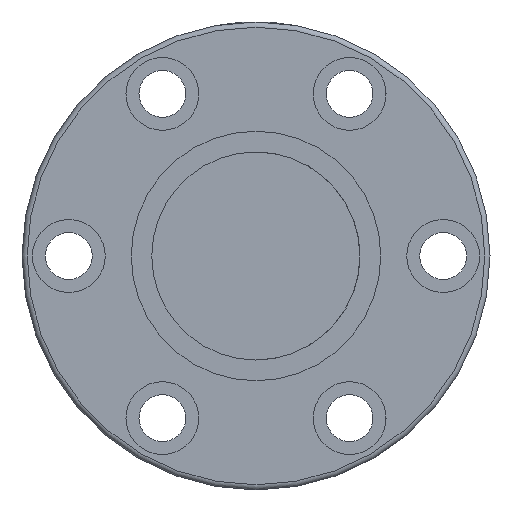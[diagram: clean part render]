
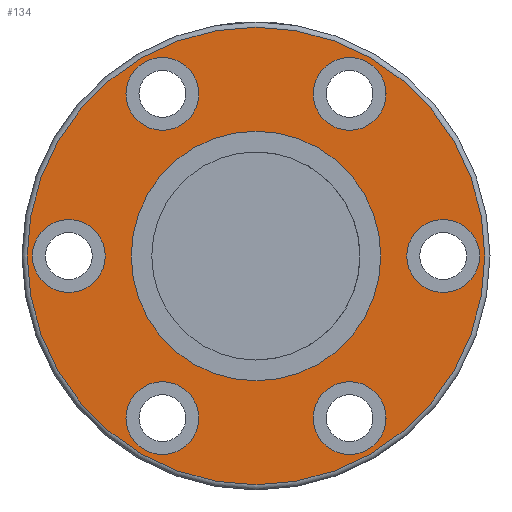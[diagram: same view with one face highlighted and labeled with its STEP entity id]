
A CAD part, front view. The second image highlights one B-rep face of the part: STEP entity #134.
In plain terms, the highlighted planar face has unit normal (0, -1, 0).
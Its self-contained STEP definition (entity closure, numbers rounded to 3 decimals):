
#134=ADVANCED_FACE('',(#197,#198,#199,#200,#201,#202,#203,#204),#179,.F.);
#179=PLANE('',#661);
#197=FACE_BOUND('',#297,.T.);
#198=FACE_BOUND('',#298,.T.);
#199=FACE_BOUND('',#299,.T.);
#200=FACE_BOUND('',#300,.T.);
#201=FACE_BOUND('',#301,.T.);
#202=FACE_BOUND('',#302,.T.);
#203=FACE_BOUND('',#303,.T.);
#204=FACE_BOUND('',#304,.T.);
#297=EDGE_LOOP('',(#399));
#298=EDGE_LOOP('',(#400));
#299=EDGE_LOOP('',(#401));
#300=EDGE_LOOP('',(#402));
#301=EDGE_LOOP('',(#403));
#302=EDGE_LOOP('',(#404));
#303=EDGE_LOOP('',(#405));
#304=EDGE_LOOP('',(#406));
#399=ORIENTED_EDGE('',*,*,#552,.T.);
#400=ORIENTED_EDGE('',*,*,#553,.T.);
#401=ORIENTED_EDGE('',*,*,#554,.T.);
#402=ORIENTED_EDGE('',*,*,#555,.T.);
#403=ORIENTED_EDGE('',*,*,#556,.T.);
#404=ORIENTED_EDGE('',*,*,#557,.T.);
#405=ORIENTED_EDGE('',*,*,#558,.T.);
#406=ORIENTED_EDGE('',*,*,#559,.F.);
#501=VERTEX_POINT('',#939);
#502=VERTEX_POINT('',#941);
#503=VERTEX_POINT('',#943);
#504=VERTEX_POINT('',#945);
#505=VERTEX_POINT('',#947);
#506=VERTEX_POINT('',#949);
#507=VERTEX_POINT('',#951);
#508=VERTEX_POINT('',#953);
#552=EDGE_CURVE('',#501,#501,#603,.T.);
#553=EDGE_CURVE('',#502,#502,#604,.T.);
#554=EDGE_CURVE('',#503,#503,#605,.T.);
#555=EDGE_CURVE('',#504,#504,#606,.T.);
#556=EDGE_CURVE('',#505,#505,#607,.T.);
#557=EDGE_CURVE('',#506,#506,#608,.T.);
#558=EDGE_CURVE('',#507,#507,#609,.T.);
#559=EDGE_CURVE('',#508,#508,#610,.T.);
#603=CIRCLE('',#653,7.);
#604=CIRCLE('',#654,7.);
#605=CIRCLE('',#655,7.);
#606=CIRCLE('',#656,7.);
#607=CIRCLE('',#657,7.);
#608=CIRCLE('',#658,7.);
#609=CIRCLE('',#659,44.);
#610=CIRCLE('',#660,24.);
#653=AXIS2_PLACEMENT_3D('',#938,#749,#750);
#654=AXIS2_PLACEMENT_3D('',#940,#751,#752);
#655=AXIS2_PLACEMENT_3D('',#942,#753,#754);
#656=AXIS2_PLACEMENT_3D('',#944,#755,#756);
#657=AXIS2_PLACEMENT_3D('',#946,#757,#758);
#658=AXIS2_PLACEMENT_3D('',#948,#759,#760);
#659=AXIS2_PLACEMENT_3D('',#950,#761,#762);
#660=AXIS2_PLACEMENT_3D('',#952,#763,#764);
#661=AXIS2_PLACEMENT_3D('',#954,#765,#766);
#749=DIRECTION('',(0.,1.,0.));
#750=DIRECTION('',(0.,0.,1.));
#751=DIRECTION('',(0.,1.,0.));
#752=DIRECTION('',(0.,0.,1.));
#753=DIRECTION('',(0.,1.,0.));
#754=DIRECTION('',(0.,0.,1.));
#755=DIRECTION('',(0.,1.,0.));
#756=DIRECTION('',(0.,0.,1.));
#757=DIRECTION('',(0.,1.,0.));
#758=DIRECTION('',(0.,0.,1.));
#759=DIRECTION('',(0.,1.,0.));
#760=DIRECTION('',(0.,0.,1.));
#761=DIRECTION('',(0.,-1.,0.));
#762=DIRECTION('',(0.,0.,1.));
#763=DIRECTION('',(0.,-1.,0.));
#764=DIRECTION('',(1.,0.,0.));
#765=DIRECTION('',(0.,1.,0.));
#766=DIRECTION('',(0.,0.,-1.));
#938=CARTESIAN_POINT('',(36.039,-27.461,0.));
#939=CARTESIAN_POINT('',(36.039,-27.461,7.));
#940=CARTESIAN_POINT('',(-35.961,-27.461,0.));
#941=CARTESIAN_POINT('',(-35.961,-27.461,7.));
#942=CARTESIAN_POINT('',(18.039,-27.461,-31.177));
#943=CARTESIAN_POINT('',(18.039,-27.461,-24.177));
#944=CARTESIAN_POINT('',(-17.961,-27.461,-31.177));
#945=CARTESIAN_POINT('',(-17.961,-27.461,-24.177));
#946=CARTESIAN_POINT('',(18.039,-27.461,31.177));
#947=CARTESIAN_POINT('',(18.039,-27.461,38.177));
#948=CARTESIAN_POINT('',(-17.961,-27.461,31.177));
#949=CARTESIAN_POINT('',(-17.961,-27.461,38.177));
#950=CARTESIAN_POINT('',(0.039,-27.461,0.));
#951=CARTESIAN_POINT('',(0.039,-27.461,44.));
#952=CARTESIAN_POINT('',(0.039,-27.461,0.));
#953=CARTESIAN_POINT('',(24.039,-27.461,0.));
#954=CARTESIAN_POINT('',(0.039,-27.461,0.));
